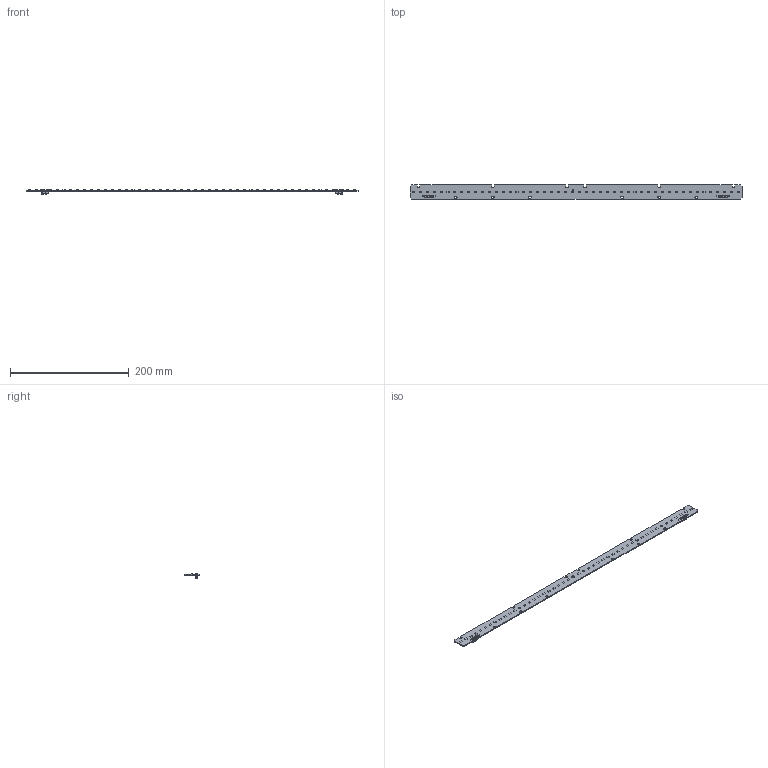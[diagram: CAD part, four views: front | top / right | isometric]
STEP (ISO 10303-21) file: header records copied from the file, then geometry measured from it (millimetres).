
FILE_DESCRIPTION((''),'2;1');
FILE_NAME('16208856_LLE-G1-24X560-BACK','2020-06-10T08:48:27',('bernhard.fink'),(''),'CREO PARAMETRIC BY PTC INC, 2019164','CREO PARAMETRIC BY PTC INC, 2019164','');
FILE_SCHEMA(('CONFIG_CONTROL_DESIGN'));
Products named in the file (1): 16208856_LLE-G1-24X560-BACK
Bounding box: 559 x 23.6 x 7.4 mm (x, y, z)
Volume: 21586.9 mm3; surface area: 29616.9 mm2
Topology: 1 solids, 3 shells, 917 faces, 2550 edges, 1694 vertices
Faces by surface type: plane 689, cylinder 168, extrusion 44, cone 8, bspline 8
Entity records: 54077 total; most frequent: CARTESIAN_POINT 30774, ORIENTED_EDGE 5020, DIRECTION 4358, EDGE_CURVE 2550, VECTOR 1954, LINE 1910, VERTEX_POINT 1694, AXIS2_PLACEMENT_3D 1202
